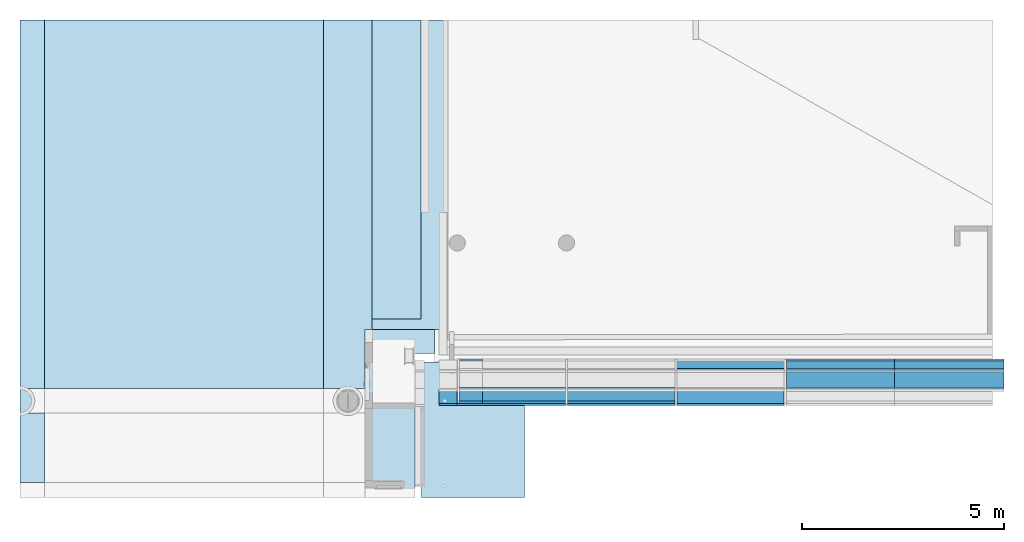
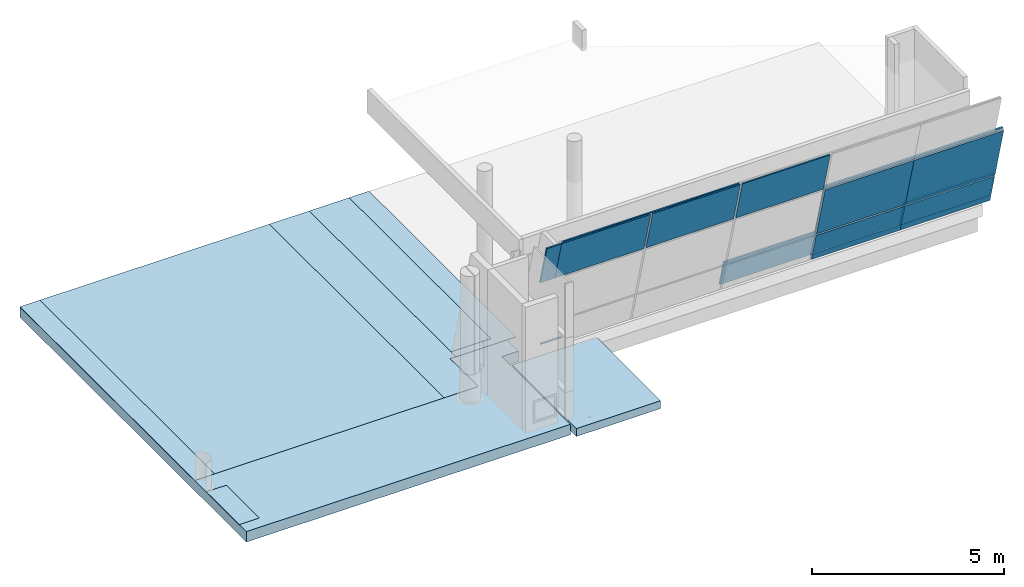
# One storey, part 3 of 10: 19 plates, 8 slabs, 3 elements without a shape of their own.
"""IFC2X3 building model written with IfcOpenShell, lengths in millimetres."""

from ifc_helpers import new_model, entity, si_unit, converted_unit, derived_unit, direction, frame, origin, origin_with_axes, origin_2d_with_axis, place, context, subcontext, project, spatial, rectangle, extrude, faceted_brep, source, transform, mapped, material, layer, layer_set, type_object, element, aggregate, save


model = new_model("IFC2X3")

# Units and contexts
model_context = context("Model", 3, precision=0.01, world=origin(), true_north=direction((6.12303176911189e-17, 1.0)))
plan_context = context("Plan", 3, precision=1e-05, world=origin_with_axes())
body_context = subcontext(model_context, "Body", "Model", "MODEL_VIEW")
ifc_project = project(units=[converted_unit("PLANEANGLEUNIT", "DEGREE", entity("IfcPositiveLengthMeasure", 0.0174532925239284), si_unit("PLANEANGLEUNIT", "RADIAN"), dimensions=[0, 0, 0, 0, 0, 0, 0]), si_unit("AREAUNIT", "SQUARE_METRE"), si_unit("LENGTHUNIT", "METRE", prefix="MILLI"), si_unit("MASSUNIT", "GRAM", prefix="KILO"), si_unit("POWERUNIT", "WATT"), si_unit("PRESSUREUNIT", "PASCAL"), si_unit("FORCEUNIT", "NEWTON", prefix="KILO"), si_unit("ELECTRICVOLTAGEUNIT", "VOLT"), si_unit("ELECTRICCURRENTUNIT", "AMPERE"), si_unit("THERMODYNAMICTEMPERATUREUNIT", "DEGREE_CELSIUS"), si_unit("TIMEUNIT", "SECOND"), si_unit("VOLUMEUNIT", "CUBIC_METRE"), derived_unit("LINEARVELOCITYUNIT", [(si_unit("LENGTHUNIT", "METRE"), 1), (si_unit("TIMEUNIT", "SECOND"), -1)]), derived_unit("VOLUMETRICFLOWRATEUNIT", [(si_unit("VOLUMEUNIT", "CUBIC_METRE"), 1), (si_unit("TIMEUNIT", "SECOND"), -1)]), derived_unit("THERMALTRANSMITTANCEUNIT", [(si_unit("POWERUNIT", "WATT"), 1), (si_unit("THERMODYNAMICTEMPERATUREUNIT", "KELVIN"), -1), (si_unit("AREAUNIT", "SQUARE_METRE"), -1)]), derived_unit("SOUNDPRESSUREUNIT", [(si_unit("PRESSUREUNIT", "PASCAL"), 1)])], contexts=[model_context, plan_context])

# Site, building, storey
site_placement = place(None, frame((2314154.5009392, 1029894.10887124, 0.0), z_axis=(0.0, 0.0, 1.0), x_axis=(1.0, 0.0, 0.0)))
site = spatial("IfcSite", under=ifc_project, at=site_placement, Name="Default", CompositionType="ELEMENT")
building_placement = place(site_placement, origin_with_axes())
building = spatial("IfcBuilding", under=site, at=building_placement, CompositionType="ELEMENT")
storey_placement = place(building_placement, frame((0.0, 0.0, 9320.0), z_axis=(0.0, 0.0, 1.0), x_axis=(1.0, 0.0, 0.0)))
storey = spatial("IfcBuildingStorey", under=building, at=storey_placement, Name="H01 Hovedetasje", CompositionType="ELEMENT", Elevation=9320.0)

# Curtain wall, plates
curtain_wall_type_1 = type_object("IfcCurtainWallType", Name="Curtain System:1500 x 3000", PredefinedType="NOTDEFINED")
curtain_wall_1_placement = place(storey_placement, frame((0.0, 0.0, -9320.0), z_axis=(0.0, 0.0, 1.0), x_axis=(1.0, 0.0, 0.0)))
curtain_wall_1 = element("IfcCurtainWall", 1, at=curtain_wall_1_placement, inside=storey, type_object=curtain_wall_type_1, Name="Curtain System:1500 x 3000", ObjectType="Curtain System:1500 x 3000")
ifc_material_1 = material(Name="Glass 01_jb")
plate_type_1 = type_object("IfcPlateType", Name="System Panel:Glazed-generic", PredefinedType="CURTAIN_PANEL", material=ifc_material_1)
shared_shape_1 = source(origin(), body_context, "Body", "SweptSolid", [
    extrude(rectangle(XDim=48.0, YDim=2700.00000000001, at=origin_2d_with_axis()), frame((0.0, 8.50000000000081, 0.0), z_axis=(0.0, 0.0, 1.0), x_axis=(0.0, 1.0, 0.0)), (0.0, 0.0, 1.0), 952.000000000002),
])
plate_1_placement = place(curtain_wall_1_placement, frame((116210.333947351, -38954.4514097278, 9320.0), z_axis=(0.0, -0.260890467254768, 0.965368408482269), x_axis=(-1.0, 0.0, 0.0)))
plate_1 = element("IfcPlate", 2, at=plate_1_placement, type_object=plate_type_1, material=ifc_material_1, Name="System Panel:Glazed-generic", ObjectType="System Panel:Glazed-generic", context=body_context, shape_type="MappedRepresentation", body=[
    mapped(shared_shape_1, transform((0.0, 0.0, 0.0), scale=1.0)),
])
plate_type_2 = type_object("IfcPlateType", Name="System Panel:Glazed-generic", PredefinedType="CURTAIN_PANEL", material=ifc_material_1)
shared_shape_2 = source(origin(), body_context, "Body", "SweptSolid", [
    extrude(rectangle(XDim=48.0, YDim=2672.0, at=origin_2d_with_axis()), frame((0.0, 8.50000000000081, 0.0), z_axis=(0.0, 0.0, 1.0), x_axis=(0.0, 1.0, 0.0)), (0.0, 0.0, 1.0), 952.000000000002),
])
plate_2_placement = place(curtain_wall_1_placement, frame((113524.333947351, -38954.4514097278, 9320.0), z_axis=(0.0, -0.260890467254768, 0.965368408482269), x_axis=(-1.0, 0.0, 0.0)))
plate_2 = element("IfcPlate", 3, at=plate_2_placement, type_object=plate_type_2, material=ifc_material_1, Name="System Panel:Glazed-generic", ObjectType="System Panel:Glazed-generic", context=body_context, shape_type="MappedRepresentation", body=[
    mapped(shared_shape_2, transform((0.0, 0.0, 0.0), scale=1.0)),
])
plate_type_3 = type_object("IfcPlateType", Name="System Panel:Glazed-generic", PredefinedType="CURTAIN_PANEL", material=ifc_material_1)
shared_shape_3 = source(origin(), body_context, "Body", "SweptSolid", [
    extrude(rectangle(XDim=48.0, YDim=2700.00000000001, at=origin_2d_with_axis()), frame((0.0, 8.49999999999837, 0.0), z_axis=(0.0, 0.0, 1.0), x_axis=(0.0, 1.0, 0.0)), (0.0, 0.0, 1.0), 1739.0),
])
plate_3_placement = place(curtain_wall_1_placement, frame((116210.333947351, -39217.4290007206, 10293.0913557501), z_axis=(0.0, -0.260890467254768, 0.965368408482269), x_axis=(-1.0, 0.0, 0.0)))
plate_3 = element("IfcPlate", 4, at=plate_3_placement, type_object=plate_type_3, material=ifc_material_1, Name="System Panel:Glazed-generic", ObjectType="System Panel:Glazed-generic", context=body_context, shape_type="MappedRepresentation", body=[
    mapped(shared_shape_3, transform((0.0, 0.0, 0.0), scale=1.0)),
])
plate_type_4 = type_object("IfcPlateType", Name="System Panel:Glazed-generic", PredefinedType="CURTAIN_PANEL", material=ifc_material_1)
shared_shape_4 = source(origin(), body_context, "Body", "SweptSolid", [
    extrude(rectangle(XDim=48.0, YDim=2672.0, at=origin_2d_with_axis()), frame((0.0, 8.49999999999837, 0.0), z_axis=(0.0, 0.0, 1.0), x_axis=(0.0, 1.0, 0.0)), (0.0, 0.0, 1.0), 1739.0),
])
plate_4_placement = place(curtain_wall_1_placement, frame((113524.333947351, -39217.4290007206, 10293.0913557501), z_axis=(0.0, -0.260890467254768, 0.965368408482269), x_axis=(-1.0, 0.0, 0.0)))
plate_4 = element("IfcPlate", 5, at=plate_4_placement, type_object=plate_type_4, material=ifc_material_1, Name="System Panel:Glazed-generic", ObjectType="System Panel:Glazed-generic", context=body_context, shape_type="MappedRepresentation", body=[
    mapped(shared_shape_4, transform((0.0, 0.0, 0.0), scale=1.0)),
])

curtain_wall_type_2 = type_object("IfcCurtainWallType", Name="Curtain System:2700 x 1790", PredefinedType="NOTDEFINED")
curtain_wall_2_placement = place(storey_placement, frame((0.0, 0.0, -9320.0), z_axis=(0.0, 0.0, 1.0), x_axis=(1.0, 0.0, 0.0)))
curtain_wall_2 = element("IfcCurtainWall", 6, at=curtain_wall_2_placement, inside=storey, type_object=curtain_wall_type_2, Name="Curtain System:2700 x 1790", ObjectType="Curtain System:2700 x 1790")
plate_type_5 = type_object("IfcPlateType", Name="System Panel:Glazed-generic", PredefinedType="CURTAIN_PANEL", material=ifc_material_1)
shared_shape_5 = source(origin(), body_context, "Body", "SweptSolid", [
    extrude(rectangle(XDim=48.0, YDim=2699.99999999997, at=origin_2d_with_axis()), frame((0.0, 8.50000000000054, 0.0), z_axis=(0.0, 0.0, 1.0), x_axis=(0.0, 1.0, 0.0)), (0.0, 0.0, 1.0), 28.972207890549),
])
plate_5_placement = place(curtain_wall_2_placement, frame((116213.567305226, -38926.1690388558, 9441.68183079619), z_axis=(0.0, -0.260890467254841, 0.965368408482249), x_axis=(-1.0, 0.0, 0.0)))
plate_5 = element("IfcPlate", 7, at=plate_5_placement, type_object=plate_type_5, material=ifc_material_1, Name="System Panel:Glazed-generic", ObjectType="System Panel:Glazed-generic", context=body_context, shape_type="MappedRepresentation", body=[
    mapped(shared_shape_5, transform((0.0, 0.0, 0.0), scale=1.0)),
])
plate_type_6 = type_object("IfcPlateType", Name="System Panel:Glazed-generic", PredefinedType="CURTAIN_PANEL", material=ifc_material_1)
shared_shape_6 = source(origin(), body_context, "Body", "SweptSolid", [
    extrude(rectangle(XDim=48.0, YDim=2675.73335787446, at=origin_2d_with_axis()), frame((0.0, 8.50000000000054, 0.0), z_axis=(0.0, 0.0, 1.0), x_axis=(0.0, 1.0, 0.0)), (0.0, 0.0, 1.0), 28.972207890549),
])
plate_6_placement = place(curtain_wall_2_placement, frame((113525.700626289, -38926.1690388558, 9441.68183079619), z_axis=(0.0, -0.260890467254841, 0.965368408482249), x_axis=(-1.0, 0.0, 0.0)))
plate_6 = element("IfcPlate", 8, at=plate_6_placement, type_object=plate_type_6, material=ifc_material_1, Name="System Panel:Glazed-generic", ObjectType="System Panel:Glazed-generic", context=body_context, shape_type="MappedRepresentation", body=[
    mapped(shared_shape_6, transform((0.0, 0.0, 0.0), scale=1.0)),
])
plate_type_7 = type_object("IfcPlateType", Name="System Panel:Glazed-generic", PredefinedType="CURTAIN_PANEL", material=ifc_material_1)
shared_shape_7 = source(origin(), body_context, "Body", "SweptSolid", [
    extrude(rectangle(XDim=48.0, YDim=628.10517326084, at=origin_2d_with_axis()), frame((0.0, 8.50000000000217, 0.0), z_axis=(0.0, 0.0, 1.0), x_axis=(0.0, 1.0, 0.0)), (0.0, 0.0, 1.0), 28.9722078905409),
])
plate_7_placement = place(curtain_wall_2_placement, frame((104373.781360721, -38926.1690388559, 9441.68183079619), z_axis=(0.0, -0.260890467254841, 0.965368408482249), x_axis=(-1.0, 0.0, 0.0)))
plate_7 = element("IfcPlate", 9, at=plate_7_placement, type_object=plate_type_7, material=ifc_material_1, Name="System Panel:Glazed-generic", ObjectType="System Panel:Glazed-generic", context=body_context, shape_type="MappedRepresentation", body=[
    mapped(shared_shape_7, transform((0.0, 0.0, 0.0), scale=1.0)),
])
plate_type_8 = type_object("IfcPlateType", Name="System Panel:Glazed-generic", PredefinedType="CURTAIN_PANEL", material=ifc_material_1)
shared_shape_8 = source(origin(), body_context, "Body", "SweptSolid", [
    extrude(rectangle(XDim=48.0, YDim=2699.99999999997, at=origin_2d_with_axis()), frame((0.0, 8.49999999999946, 0.0), z_axis=(0.0, 0.0, 1.0), x_axis=(0.0, 1.0, 0.0)), (0.0, 0.0, 1.0), 880.000000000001),
])
plate_8_placement = place(curtain_wall_2_placement, frame((116213.567305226, -38933.7276117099, 9469.6506850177), z_axis=(0.0, -0.260890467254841, 0.965368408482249), x_axis=(-1.0, 0.0, 0.0)))
plate_8 = element("IfcPlate", 10, at=plate_8_placement, type_object=plate_type_8, material=ifc_material_1, Name="System Panel:Glazed-generic", ObjectType="System Panel:Glazed-generic", context=body_context, shape_type="MappedRepresentation", body=[
    mapped(shared_shape_8, transform((0.0, 0.0, 0.0), scale=1.0)),
])
plate_type_9 = type_object("IfcPlateType", Name="System Panel:Glazed-generic", PredefinedType="CURTAIN_PANEL", material=ifc_material_1)
shared_shape_9 = source(origin(), body_context, "Body", "SweptSolid", [
    extrude(rectangle(XDim=48.0, YDim=2675.73335787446, at=origin_2d_with_axis()), frame((0.0, 8.49999999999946, 0.0), z_axis=(0.0, 0.0, 1.0), x_axis=(0.0, 1.0, 0.0)), (0.0, 0.0, 1.0), 880.000000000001),
])
plate_9_placement = place(curtain_wall_2_placement, frame((113525.700626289, -38933.7276117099, 9469.6506850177), z_axis=(0.0, -0.260890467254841, 0.965368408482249), x_axis=(-1.0, 0.0, 0.0)))
plate_9 = element("IfcPlate", 11, at=plate_9_placement, type_object=plate_type_9, material=ifc_material_1, Name="System Panel:Glazed-generic", ObjectType="System Panel:Glazed-generic", context=body_context, shape_type="MappedRepresentation", body=[
    mapped(shared_shape_9, transform((0.0, 0.0, 0.0), scale=1.0)),
])
plate_type_10 = type_object("IfcPlateType", Name="System Panel:Glazed-generic", PredefinedType="CURTAIN_PANEL", material=ifc_material_1)
shared_shape_10 = source(origin(), body_context, "Body", "SweptSolid", [
    extrude(rectangle(XDim=48.0, YDim=2747.50000000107, at=origin_2d_with_axis()), frame((0.0, 8.49999999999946, 0.0), z_axis=(0.0, 0.0, 1.0), x_axis=(0.0, 1.0, 0.0)), (0.0, 0.0, 1.0), 880.000000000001),
])
plate_10_placement = place(curtain_wall_2_placement, frame((110814.083947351, -38933.7276117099, 9469.6506850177), z_axis=(0.0, -0.260890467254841, 0.965368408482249), x_axis=(-1.0, 0.0, 0.0)))
plate_10 = element("IfcPlate", 12, at=plate_10_placement, type_object=plate_type_10, material=ifc_material_1, Name="System Panel:Glazed-generic", ObjectType="System Panel:Glazed-generic", context=body_context, shape_type="MappedRepresentation", body=[
    mapped(shared_shape_10, transform((0.0, 0.0, 0.0), scale=1.0)),
])
plate_type_11 = type_object("IfcPlateType", Name="System Panel:Glazed-generic", PredefinedType="CURTAIN_PANEL", material=ifc_material_1)
shared_shape_11 = source(origin(), body_context, "Body", "SweptSolid", [
    extrude(rectangle(XDim=48.0, YDim=2699.99999999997, at=origin_2d_with_axis()), frame((0.0, 8.49999999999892, 0.0), z_axis=(0.0, 0.0, 1.0), x_axis=(0.0, 1.0, 0.0)), (0.0, 0.0, 1.0), 1791.02779210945),
])
plate_11_placement = place(curtain_wall_2_placement, frame((116213.567305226, -39163.3112228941, 10319.1748844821), z_axis=(0.0, -0.260890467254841, 0.965368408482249), x_axis=(-1.0, 0.0, 0.0)))
plate_11 = element("IfcPlate", 13, at=plate_11_placement, type_object=plate_type_11, material=ifc_material_1, Name="System Panel:Glazed-generic", ObjectType="System Panel:Glazed-generic", context=body_context, shape_type="MappedRepresentation", body=[
    mapped(shared_shape_11, transform((0.0, 0.0, 0.0), scale=1.0)),
])
plate_type_12 = type_object("IfcPlateType", Name="System Panel:Glazed-generic", PredefinedType="CURTAIN_PANEL", material=ifc_material_1)
shared_shape_12 = source(origin(), body_context, "Body", "SweptSolid", [
    extrude(rectangle(XDim=48.0, YDim=2675.73335787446, at=origin_2d_with_axis()), frame((0.0, 8.49999999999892, 0.0), z_axis=(0.0, 0.0, 1.0), x_axis=(0.0, 1.0, 0.0)), (0.0, 0.0, 1.0), 1791.02779210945),
])
plate_12_placement = place(curtain_wall_2_placement, frame((113525.700626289, -39163.3112228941, 10319.1748844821), z_axis=(0.0, -0.260890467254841, 0.965368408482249), x_axis=(-1.0, 0.0, 0.0)))
plate_12 = element("IfcPlate", 14, at=plate_12_placement, type_object=plate_type_12, material=ifc_material_1, Name="System Panel:Glazed-generic", ObjectType="System Panel:Glazed-generic", context=body_context, shape_type="MappedRepresentation", body=[
    mapped(shared_shape_12, transform((0.0, 0.0, 0.0), scale=1.0)),
])

# Plate
plate_type_13 = type_object("IfcPlateType", Name="System Panel:Glazed-generic", PredefinedType="CURTAIN_PANEL", material=ifc_material_1)
plate_13_placement = place(curtain_wall_1_placement, frame((108110.333947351, -39685.7273894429, 12025.9276489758), z_axis=(0.0, -0.260890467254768, 0.965368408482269), x_axis=(-1.0, 0.0, 0.0)))
plate_13 = element("IfcPlate", 15, at=plate_13_placement, type_object=plate_type_13, Name="System Panel:Glazed-generic", ObjectType="System Panel:Glazed-generic", context=body_context, shape_type="Brep", body=[
    faceted_brep([(-1322.0, -15.5000000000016, 1336.30698647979), (1322.0, -15.5000000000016, 1336.30698647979), (1322.0, -15.5000000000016, 0.0), (-1322.0, -15.5000000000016, 0.0), (1322.0, 32.4999999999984, 1349.27896931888), (1322.0, 32.4999999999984, 0.0), (-1322.0, 32.4999999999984, 1349.27896931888), (-1322.0, 32.4999999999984, 0.0)], [[[0, 1, 2, 3]], [[1, 4, 5, 2]], [[4, 6, 7, 5]], [[6, 0, 3, 7]], [[3, 2, 5, 7]], [[6, 4, 1, 0]]], orient=[[False], [False], [False], [False], [False], [False]]),
])

plate_14_placement = place(curtain_wall_1_placement, frame((110810.333947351, -39685.7273894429, 12025.9276489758), z_axis=(0.0, -0.260890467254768, 0.965368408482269), x_axis=(-1.0, 0.0, 0.0)))
plate_14 = element("IfcPlate", 16, at=plate_14_placement, type_object=plate_type_13, Name="System Panel:Glazed-generic", ObjectType="System Panel:Glazed-generic", context=body_context, shape_type="Brep", body=[
    faceted_brep([(-1322.0, -15.5000000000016, 1336.30698647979), (1322.0, -15.5000000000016, 1336.30698647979), (1322.0, -15.5000000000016, 0.0), (-1322.0, -15.5000000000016, 0.0), (1322.0, 32.4999999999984, 1349.27896931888), (1322.0, 32.4999999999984, 0.0), (-1322.0, 32.4999999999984, 1349.27896931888), (-1322.0, 32.4999999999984, 0.0)], [[[0, 1, 2, 3]], [[1, 4, 5, 2]], [[4, 6, 7, 5]], [[6, 0, 3, 7]], [[3, 2, 5, 7]], [[6, 4, 1, 0]]], orient=[[False], [False], [False], [False], [False], [False]]),
])

plate_type_14 = type_object("IfcPlateType", Name="System Panel:Glazed-generic", PredefinedType="CURTAIN_PANEL", material=ifc_material_1)
plate_15_placement = place(curtain_wall_1_placement, frame((105391.467458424, -39685.7273894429, 12025.9276489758), z_axis=(0.0, -0.260890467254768, 0.965368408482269), x_axis=(-1.0, 0.0, 0.0)))
plate_15 = element("IfcPlate", 17, at=plate_15_placement, type_object=plate_type_14, Name="System Panel:Glazed-generic", ObjectType="System Panel:Glazed-generic", context=body_context, shape_type="Brep", body=[
    faceted_brep([(-1340.8664889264, -15.5000000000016, 1336.30698647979), (1340.8664889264, -15.5000000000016, 1336.30698647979), (1340.8664889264, -15.5000000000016, 0.0), (-1340.8664889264, -15.5000000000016, 0.0), (1340.8664889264, 32.4999999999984, 1349.27896931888), (1340.8664889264, 32.4999999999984, 0.0), (-1340.8664889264, 32.4999999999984, 1349.27896931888), (-1340.8664889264, 32.4999999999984, 0.0)], [[[0, 1, 2, 3]], [[1, 4, 5, 2]], [[4, 6, 7, 5]], [[6, 0, 3, 7]], [[3, 2, 5, 7]], [[6, 4, 1, 0]]], orient=[[False], [False], [False], [False], [False], [False]]),
])

plate_type_15 = type_object("IfcPlateType", Name="System Panel:Glazed-generic", PredefinedType="CURTAIN_PANEL", material=ifc_material_1)
plate_16_placement = place(curtain_wall_1_placement, frame((103830.467458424, -39685.7273894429, 12025.9276489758), z_axis=(0.0, -0.260890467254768, 0.965368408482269), x_axis=(-1.0, 0.0, 0.0)))
plate_16 = element("IfcPlate", 18, at=plate_16_placement, type_object=plate_type_15, Name="System Panel:Glazed-generic", ObjectType="System Panel:Glazed-generic", context=body_context, shape_type="Brep", body=[
    faceted_brep([(-220.133511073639, -15.5000000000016, 1336.30698647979), (220.133511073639, -15.5000000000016, 1336.30698647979), (220.133511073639, -15.5000000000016, 0.0), (-220.133511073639, -15.5000000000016, 0.0), (220.133511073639, 32.4999999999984, 1349.27896931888), (220.133511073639, 32.4999999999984, 0.0), (-220.133511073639, 32.4999999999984, 1349.27896931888), (-220.133511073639, 32.4999999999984, 0.0)], [[[0, 1, 2, 3]], [[1, 4, 5, 2]], [[4, 6, 7, 5]], [[6, 0, 3, 7]], [[3, 2, 5, 7]], [[6, 4, 1, 0]]], orient=[[False], [False], [False], [False], [False], [False]]),
])

aggregate(curtain_wall_1, [plate_1, plate_2, plate_3, plate_4, plate_13, plate_15, plate_16, plate_14])

plate_type_16 = type_object("IfcPlateType", Name="System Panel:Glazed-generic", PredefinedType="CURTAIN_PANEL", material=ifc_material_1)
plate_17_placement = place(curtain_wall_2_placement, frame((108099.083947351, -39630.5733004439, 12048.1765336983), z_axis=(0.0, -0.260890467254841, 0.965368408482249), x_axis=(-1.0, 0.0, 0.0)))
plate_17 = element("IfcPlate", 19, at=plate_17_placement, type_object=plate_type_16, Name="System Panel:Glazed-generic", ObjectType="System Panel:Glazed-generic", context=body_context, shape_type="Brep", body=[
    faceted_brep([(-1341.24999999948, -15.5000000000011, 1313.25994606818), (1341.24999999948, -15.5000000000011, 1313.25994606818), (1341.24999999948, -15.5000000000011, 0.0), (-1341.24999999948, -15.5000000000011, 0.0), (1341.24999999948, 32.4999999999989, 1326.23192890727), (1341.24999999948, 32.4999999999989, 0.0), (-1341.24999999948, 32.4999999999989, 1326.23192890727), (-1341.24999999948, 32.4999999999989, 0.0)], [[[0, 1, 2, 3]], [[1, 4, 5, 2]], [[4, 6, 7, 5]], [[6, 0, 3, 7]], [[3, 2, 5, 7]], [[6, 4, 1, 0]]], orient=[[False], [False], [False], [False], [False], [False]]),
])

plate_type_17 = type_object("IfcPlateType", Name="System Panel:Glazed-generic", PredefinedType="CURTAIN_PANEL", material=ifc_material_1)
plate_18_placement = place(curtain_wall_2_placement, frame((105722.833947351, -39630.5733004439, 12048.1765336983), z_axis=(0.0, -0.260890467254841, 0.965368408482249), x_axis=(-1.0, 0.0, 0.0)))
plate_18 = element("IfcPlate", 20, at=plate_18_placement, type_object=plate_type_17, Name="System Panel:Glazed-generic", ObjectType="System Panel:Glazed-generic", context=body_context, shape_type="Brep", body=[
    faceted_brep([(-1034.99999999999, -15.5000000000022, 1313.25994606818), (1034.99999999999, -15.5000000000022, 1313.25994606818), (1034.99999999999, -15.5000000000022, 0.0), (-1034.99999999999, -15.5000000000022, 0.0), (1034.99999999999, 32.4999999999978, 1326.23192890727), (1034.99999999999, 32.4999999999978, 0.0), (-1034.99999999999, 32.4999999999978, 1326.23192890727), (-1034.99999999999, 32.4999999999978, 0.0)], [[[0, 1, 2, 3]], [[1, 4, 5, 2]], [[4, 6, 7, 5]], [[6, 0, 3, 7]], [[3, 2, 5, 7]], [[6, 4, 1, 0]]], orient=[[False], [False], [False], [False], [False], [False]]),
])

plate_type_18 = type_object("IfcPlateType", Name="System Panel:Glazed-generic", PredefinedType="CURTAIN_PANEL", material=ifc_material_1)
plate_19_placement = place(curtain_wall_2_placement, frame((104401.781360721, -39630.5733004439, 12048.1765336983), z_axis=(0.0, -0.260890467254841, 0.965368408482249), x_axis=(-1.0, 0.0, 0.0)))
plate_19 = element("IfcPlate", 21, at=plate_19_placement, type_object=plate_type_18, Name="System Panel:Glazed-generic", ObjectType="System Panel:Glazed-generic", context=body_context, shape_type="Brep", body=[
    faceted_brep([(-286.052586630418, -15.5000000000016, 1313.25994606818), (286.052586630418, -15.5000000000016, 1313.25994606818), (286.052586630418, -15.5000000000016, 0.0), (-286.052586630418, -15.5000000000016, 0.0), (286.052586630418, 32.4999999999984, 1326.23192890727), (286.052586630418, 32.4999999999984, 0.0), (-286.052586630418, 32.4999999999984, 1326.23192890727), (-286.052586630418, 32.4999999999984, 0.0)], [[[0, 1, 2, 3]], [[1, 4, 5, 2]], [[4, 6, 7, 5]], [[6, 0, 3, 7]], [[3, 2, 5, 7]], [[6, 4, 1, 0]]], orient=[[False], [False], [False], [False], [False], [False]]),
])

aggregate(curtain_wall_2, [plate_5, plate_6, plate_7, plate_8, plate_9, plate_10, plate_11, plate_12, plate_17, plate_18, plate_19])

# Slabs
slab_1_placement = place(storey_placement, frame((37064.3339473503, -46950.5286147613, -450.0), z_axis=(0.0, 0.0, 1.0), x_axis=(1.0, 0.0, 0.0)))
slab_1 = element("IfcSlab", 22, at=slab_1_placement, inside=storey, Name="Floor:Værnes_Betong Floor 250-External", ObjectType="Floor:Værnes_Betong Floor 250-External", PredefinedType="NOTDEFINED")
slab_type_1 = type_object("IfcSlabType", Name="Floor:Værnes_Betong Floor 250-External", PredefinedType="NOTDEFINED")
slab_2_placement = place(slab_1_placement, origin_with_axes())
slab_2 = element("IfcSlab", 23, at=slab_2_placement, type_object=slab_type_1, Name="Floor:Værnes_Betong Floor 250-External", ObjectType="Floor:Værnes_Betong Floor 250-External", PredefinedType="NOTDEFINED", context=body_context, shape_type="Brep", body=[
    faceted_brep([(66117.9516479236, 4615.13758487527, 250.0), (66117.9516479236, 4615.13758487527, -5.6843418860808e-13), (66117.9516479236, 7961.0997133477, -5.6843418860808e-13), (66117.9516479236, 7961.0997133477, 250.0), (68657.7516479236, 7961.09971334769, -5.6843418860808e-13), (68657.7516479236, 7961.09971334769, 250.0), (68657.7516479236, 4615.13758487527, -5.6843418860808e-13), (68657.7516479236, 4615.13758487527, 250.0)], [[[0, 1, 2, 3]], [[3, 2, 4, 5]], [[6, 7, 5, 4]], [[7, 0, 3, 5]], [[1, 6, 4, 2]], [[7, 6, 1, 0]]], orient=[[False], [False], [False], [False], [False], [False]]),
])
aggregate(slab_1, [slab_2])

ifc_material_2 = material(Name="air")
ifc_layer_1 = layer(ifc_material_2, 12.0)
ifc_material_3 = material(Name="_NSW Betong")
ifc_layer_2 = layer(ifc_material_3, 120.0)
ifc_material_4 = material(Name="_NSW Isolasjon")
ifc_layer_3 = layer(ifc_material_4, 200.0)
ifc_layer_set_1 = layer_set([ifc_layer_1, ifc_layer_2, ifc_layer_3], Name="Floor:NSW Gulv - Betong 120 + 10 mm flis")
slab_type_2 = type_object("IfcSlabType", Name="Floor:NSW Gulv - Betong 120 + 10 mm flis", PredefinedType="FLOOR", material=ifc_layer_set_1)
slab_3_placement = place(storey_placement, origin_with_axes())
element("IfcSlab", 24, at=slab_3_placement, inside=storey, type_object=slab_type_2, Name="Floor:NSW Gulv - Betong 120 + 10 mm flis", ObjectType="Floor:NSW Gulv - Betong 120 + 10 mm flis", PredefinedType="FLOOR", context=body_context, shape_type="Brep", body=[
    faceted_brep([(93260.3339473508, -42335.391029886, -332.0), (93260.3339473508, -42335.391029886, -2.27373675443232e-13), (103002.085595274, -42335.3910298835, 0.0), (103002.085595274, -42335.3910298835, -332.0), (103492.892283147, -30542.2006770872, 0.0), (103492.892283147, -30542.2006770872, -332.0), (103492.892283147, -38778.5887633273, -332.0), (103492.892283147, -38778.5887633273, 0.0), (103002.085595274, -38778.5887633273, -332.0), (103002.085595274, -38778.5887633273, 0.0), (93260.3339473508, -30542.2006770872, -2.27373675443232e-13), (93260.3339473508, -30542.2006770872, -332.0)], [[[0, 1, 2, 3]], [[4, 5, 6, 7]], [[7, 6, 8, 9]], [[9, 8, 3, 2]], [[1, 10, 4, 7, 9, 2]], [[5, 11, 0, 3, 8, 6]], [[11, 5, 4, 10]], [[10, 1, 0, 11]]], orient=[[False], [False], [False], [False], [False], [False], [False], [False]]),
])
ifc_material_5 = material(Name="Værnes_Flis 01")
ifc_layer_4 = layer(ifc_material_5, 10.0)
ifc_material_6 = material(Name="Værnes_Mørtel")
ifc_layer_5 = layer(ifc_material_6, 2.0)
ifc_layer_set_2 = layer_set([ifc_layer_4, ifc_layer_5], Name="Floor:VÆRNES - GULV 01 - MATT FLIS")
slab_type_3 = type_object("IfcSlabType", Name="Floor:VÆRNES - GULV 01 - MATT FLIS", PredefinedType="FLOOR", material=ifc_layer_set_2)
slab_4_placement = place(storey_placement, origin_with_axes())
element("IfcSlab", 25, at=slab_4_placement, inside=storey, type_object=slab_type_3, Name="Floor:VÆRNES - GULV 01 - MATT FLIS", ObjectType="Floor:VÆRNES - GULV 01 - MATT FLIS", PredefinedType="FLOOR", context=body_context, shape_type="Brep", body=[
    faceted_brep([(100760.333947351, -39649.2714097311, 0.0), (100760.333947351, -39649.2714097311, -12.0000000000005), (93860.3339473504, -39649.2714097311, -12.0000000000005), (93860.3339473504, -39649.2714097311, 0.0), (93860.3339473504, -30542.2006770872, -12.0000000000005), (93860.3339473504, -30542.2006770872, 0.0), (100760.333947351, -30542.2006770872, 0.0), (100760.333947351, -30542.2006770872, -12.0000000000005)], [[[0, 1, 2, 3]], [[4, 5, 3, 2]], [[6, 7, 1, 0]], [[5, 6, 0, 3]], [[7, 4, 2, 1]], [[7, 6, 5, 4]]], orient=[[False], [False], [False], [False], [False], [False]]),
])
slab_5_placement = place(storey_placement, origin_with_axes())
element("IfcSlab", 26, at=slab_5_placement, inside=storey, type_object=slab_type_3, Name="Floor:VÆRNES - GULV 01 - MATT FLIS", ObjectType="Floor:VÆRNES - GULV 01 - MATT FLIS", PredefinedType="FLOOR", context=body_context, shape_type="Brep", body=[
    faceted_brep([(103160.297794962, -37929.2714097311, 0.0), (103160.297794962, -37929.2714097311, -12.0000000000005), (101960.333947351, -37929.2714097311, -12.0000000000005), (101960.333947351, -37929.2714097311, 0.0), (101960.333947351, -30542.2006770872, -12.0000000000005), (101960.333947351, -30542.2006770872, 0.0), (103160.297794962, -30542.2006770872, 0.0), (103160.297794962, -30542.2006770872, -12.0000000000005)], [[[0, 1, 2, 3]], [[4, 5, 3, 2]], [[6, 7, 1, 0]], [[5, 6, 0, 3]], [[7, 4, 2, 1]], [[7, 6, 5, 4]]], orient=[[False], [False], [False], [False], [False], [False]]),
])
ifc_material_7 = material(Name="Værnes_Flis 02 Polert")
ifc_layer_6 = layer(ifc_material_7, 10.0)
ifc_layer_7 = layer(ifc_material_6, 2.0)
ifc_layer_set_3 = layer_set([ifc_layer_6, ifc_layer_7], Name="Floor:VÆRNES - GULV 02 - POLERT FLIS")
slab_type_4 = type_object("IfcSlabType", Name="Floor:VÆRNES - GULV 02 - POLERT FLIS", PredefinedType="FLOOR", material=ifc_layer_set_3)
slab_6_placement = place(storey_placement, origin_with_axes())
element("IfcSlab", 27, at=slab_6_placement, inside=storey, type_object=slab_type_4, Name="Floor:VÆRNES - GULV 02 - POLERT FLIS", ObjectType="Floor:VÆRNES - GULV 02 - POLERT FLIS", PredefinedType="FLOOR", context=body_context, shape_type="Brep", body=[
    faceted_brep([(101784.336509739, -39649.2714097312, 0.0), (101784.336509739, -39649.2714097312, -12.0000000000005), (100760.333947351, -39649.2714097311, -12.0000000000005), (100760.333947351, -39649.2714097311, 0.0), (100760.333947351, -30542.2006770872, -12.0000000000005), (100760.333947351, -30542.2006770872, 0.0), (101960.333947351, -30542.2006770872, 0.0), (101960.333947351, -30542.2006770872, -12.0000000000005), (101960.333947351, -38190.4508221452, -12.0000000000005), (101960.333947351, -38190.4508221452, 0.0), (101784.336509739, -38190.4508221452, -12.0000000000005), (101784.336509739, -38190.4508221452, 0.0)], [[[0, 1, 2, 3]], [[4, 5, 3, 2]], [[6, 7, 8, 9]], [[9, 8, 10, 11]], [[11, 10, 1, 0]], [[5, 6, 9, 11, 0, 3]], [[7, 4, 2, 1, 10, 8]], [[7, 6, 5, 4]]], orient=[[False], [False], [False], [False], [False], [False], [False], [False]]),
])
slab_7_placement = place(storey_placement, origin_with_axes())
element("IfcSlab", 28, at=slab_7_placement, inside=storey, type_object=slab_type_4, Name="Floor:VÆRNES - GULV 02 - POLERT FLIS", ObjectType="Floor:VÆRNES - GULV 02 - POLERT FLIS", PredefinedType="FLOOR", context=body_context, shape_type="Brep", body=[
    faceted_brep([(93260.3339473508, -39649.2714097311, -12.0000000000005), (93260.3339473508, -39649.2714097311, 0.0), (93860.3339473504, -39649.2714097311, 0.0), (93860.3339473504, -39649.2714097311, -12.0000000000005), (93860.3339473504, -30542.2006770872, 0.0), (93860.3339473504, -30542.2006770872, -12.0000000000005), (93260.3339473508, -30542.2006770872, -2.27373675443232e-13), (93260.3339473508, -30542.2006770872, -12.0000000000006)], [[[0, 1, 2, 3]], [[4, 5, 3, 2]], [[1, 6, 4, 2]], [[5, 7, 0, 3]], [[7, 5, 4, 6]], [[6, 1, 0, 7]]], orient=[[False], [False], [False], [False], [False], [False]]),
])
slab_8_placement = place(storey_placement, origin_with_axes())
element("IfcSlab", 29, at=slab_8_placement, inside=storey, type_object=slab_type_4, Name="Floor:VÆRNES - GULV 02 - POLERT FLIS", ObjectType="Floor:VÆRNES - GULV 02 - POLERT FLIS", PredefinedType="FLOOR", context=body_context, shape_type="Brep", body=[
    faceted_brep([(103758.69605085, -38190.4508221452, 0.0), (103758.69605085, -38190.4508221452, -12.0000000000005), (101960.333947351, -38190.4508221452, -12.0000000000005), (101960.333947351, -38190.4508221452, 0.0), (101960.333947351, -37929.2714097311, -12.0000000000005), (101960.333947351, -37929.2714097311, 0.0), (103160.333947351, -37929.2714097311, -12.0000000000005), (103160.333947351, -37929.2714097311, 0.0), (103160.333947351, -30542.2006770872, -12.0000000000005), (103160.333947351, -30542.2006770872, 0.0), (103758.69605085, -30542.2006770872, 0.0), (103758.69605085, -30542.2006770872, -12.0000000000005)], [[[0, 1, 2, 3]], [[3, 2, 4, 5]], [[5, 4, 6, 7]], [[8, 9, 7, 6]], [[10, 11, 1, 0]], [[9, 10, 0, 3, 5, 7]], [[11, 8, 6, 4, 2, 1]], [[11, 10, 9, 8]]], orient=[[False], [False], [False], [False], [False], [False], [False], [False]]),
])
slab_9_placement = place(storey_placement, origin_with_axes())
element("IfcSlab", 30, at=slab_9_placement, inside=storey, type_object=slab_type_4, Name="Floor:VÆRNES - GULV 02 - POLERT FLIS", ObjectType="Floor:VÆRNES - GULV 02 - POLERT FLIS", PredefinedType="FLOOR", context=body_context, shape_type="Brep", body=[
    faceted_brep([(93260.3339473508, -41968.7179587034, -12.0000000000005), (93260.3339473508, -41968.7179587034, 0.0), (93860.3339473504, -41968.7179587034, 0.0), (93860.3339473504, -41968.7179587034, -12.0000000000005), (93260.3339473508, -40249.2714097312, 0.0), (93260.3339473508, -40249.2714097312, -12.0000000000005), (93860.3339473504, -40249.2714097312, -12.0000000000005), (93860.3339473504, -40249.2714097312, 0.0)], [[[0, 1, 2, 3]], [[4, 5, 6, 7]], [[7, 6, 3, 2]], [[1, 4, 7, 2]], [[5, 0, 3, 6]], [[5, 4, 1, 0]]], orient=[[False], [False], [False], [False], [False], [False]]),
])

save(model, "model.ifc")
